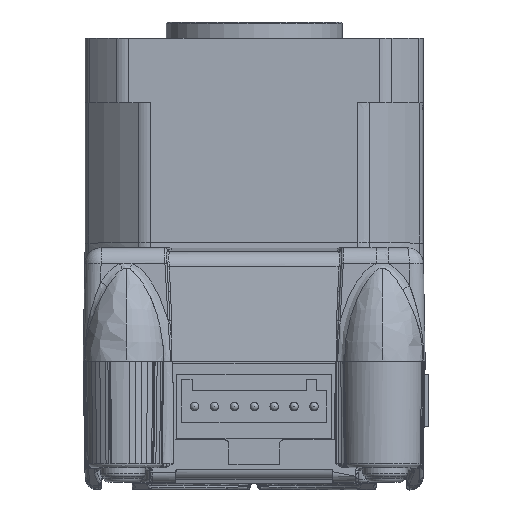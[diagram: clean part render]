
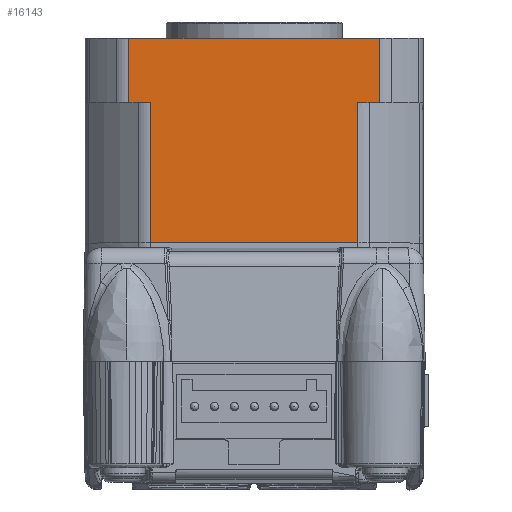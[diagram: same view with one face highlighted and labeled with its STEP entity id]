
A CAD part, top view. The second image highlights one B-rep face of the part: STEP entity #16143.
In plain terms, the highlighted planar face has unit normal (0, 0, 1).
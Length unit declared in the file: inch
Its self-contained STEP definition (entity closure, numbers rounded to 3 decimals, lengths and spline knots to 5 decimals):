
#8621=EDGE_CURVE('MDrive17 Plus[9]',#22557,#20029,#22558,.T.);
#9896=EDGE_CURVE('MDrive17 Plus[9]',#15810,#23989,#23990,.T.);
#10288=EDGE_CURVE('MDrive17 Plus[9]',#24434,#24435,#24436,.F.);
#11816=EDGE_CURVE('MDrive17 Plus[9]',#23989,#20029,#26165,.F.);
#15540=EDGE_CURVE('MDrive17 Plus[9]',#22557,#29887,#30335,.T.);
#15673=EDGE_CURVE('MDrive17 Plus[9]',#24434,#29887,#30476,.T.);
#15810=VERTEX_POINT('',#30629);
#16143=ADVANCED_FACE('MDrive17 Plus[9]',(#31001),#31002,.T.);
#17712=EDGE_CURVE('MDrive17 Plus[9]',#15810,#19111,#32723,.T.);
#17803=EDGE_CURVE('MDrive17 Plus[9]',#19111,#24435,#32823,.T.);
#19111=VERTEX_POINT('',#34263);
#20029=VERTEX_POINT('',#36264);
#22557=VERTEX_POINT('',#45911);
#22558=LINE('',#45912,#45913);
#23989=VERTEX_POINT('',#51105);
#23990=B_SPLINE_CURVE_WITH_KNOTS('',1,(#51106,#51107,#51108,#51109,#51110),.UNSPECIFIED.,.F.,.F.,(2,1,1,1,2),(-0.02042,0.00005,0.63795,0.64695,0.67),.UNSPECIFIED.);
#24434=VERTEX_POINT('',#52791);
#24435=VERTEX_POINT('',#52792);
#24436=LINE('',#52793,#52794);
#26165=LINE('',#61214,#61215);
#29887=VERTEX_POINT('',#75431);
#30335=LINE('',#77141,#77142);
#30476=LINE('',#77736,#77737);
#30629=CARTESIAN_POINT('',(-0.34365,1.55474,0.77812));
#31001=FACE_OUTER_BOUND('',#79301,.T.);
#31002=PLANE('',#79302);
#32723=LINE('',#86776,#86777);
#32823=LINE('',#87156,#87157);
#34263=CARTESIAN_POINT('',(-1.36268,1.55474,0.77812));
#36264=CARTESIAN_POINT('',(-0.23713,2.24526,0.77812));
#45911=CARTESIAN_POINT('',(-0.23713,2.56226,0.77812));
#45912=CARTESIAN_POINT('',(-0.23713,2.56226,0.77812));
#45913=VECTOR('',#97562,1.0);
#51105=CARTESIAN_POINT('',(-0.34365,2.24526,0.77812));
#51106=CARTESIAN_POINT('',(-0.34365,1.55479,0.77812));
#51107=CARTESIAN_POINT('',(-0.34365,1.57526,0.77812));
#51108=CARTESIAN_POINT('',(-0.34365,2.21316,0.77812));
#51109=CARTESIAN_POINT('',(-0.34365,2.22216,0.77812));
#51110=CARTESIAN_POINT('',(-0.34365,2.24526,0.77812));
#52791=CARTESIAN_POINT('',(-1.4692,2.24526,0.77812));
#52792=CARTESIAN_POINT('',(-1.36283,2.24526,0.77812));
#52793=CARTESIAN_POINT('',(-0.4802,2.24526,0.77812));
#52794=VECTOR('',#98818,1.0);
#61214=CARTESIAN_POINT('',(-0.4802,2.24526,0.77812));
#61215=VECTOR('',#100153,1.0);
#75431=CARTESIAN_POINT('',(-1.4692,2.56226,0.77812));
#77141=CARTESIAN_POINT('',(-0.4802,2.56226,0.77812));
#77142=VECTOR('',#103395,1.0);
#77736=CARTESIAN_POINT('',(-1.4692,2.56226,0.77812));
#77737=VECTOR('',#103456,1.0);
#79301=EDGE_LOOP('',(#103885,#103886,#103887,#103888,#103889,#103890,#103891,#103892));
#79302=AXIS2_PLACEMENT_3D('',#103893,#103894,#103895);
#86776=CARTESIAN_POINT('',(-0.91976,1.55474,0.77812));
#86777=VECTOR('',#105196,1.0);
#87156=CARTESIAN_POINT('',(-1.36283,1.7028,0.77812));
#87157=VECTOR('',#105263,1.0);
#97562=DIRECTION('',(0.0,-1.0,0.0));
#98818=DIRECTION('',(-1.0,0.0,0.));
#100153=DIRECTION('',(-1.0,0.0,0.));
#103395=DIRECTION('',(-1.0,0.0,0.));
#103456=DIRECTION('',(0.0,1.0,0.0));
#103885=ORIENTED_EDGE('',*,*,#8621,.F.);
#103886=ORIENTED_EDGE('',*,*,#15540,.T.);
#103887=ORIENTED_EDGE('',*,*,#15673,.F.);
#103888=ORIENTED_EDGE('',*,*,#10288,.T.);
#103889=ORIENTED_EDGE('',*,*,#17803,.F.);
#103890=ORIENTED_EDGE('',*,*,#17712,.F.);
#103891=ORIENTED_EDGE('',*,*,#9896,.T.);
#103892=ORIENTED_EDGE('',*,*,#11816,.T.);
#103893=CARTESIAN_POINT('',(-0.34365,1.57521,0.77812));
#103894=DIRECTION('',(0.0,0.0,1.0));
#103895=DIRECTION('',(1.0,0.0,0.0));
#105196=DIRECTION('',(-1.0,0.0,0.0));
#105263=DIRECTION('',(0.,1.0,0.));
